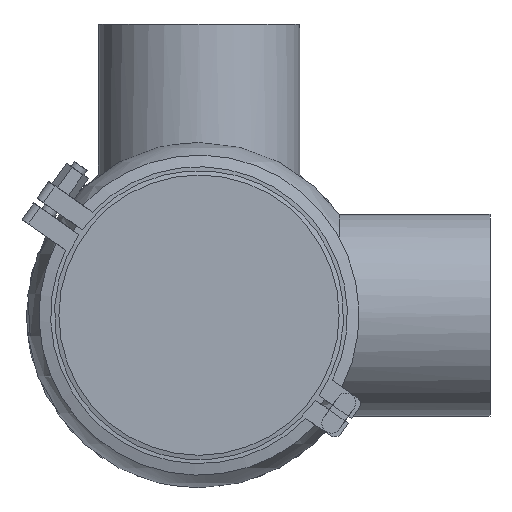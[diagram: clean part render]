
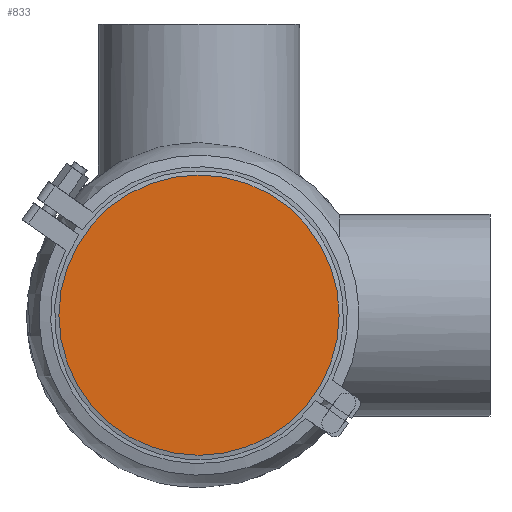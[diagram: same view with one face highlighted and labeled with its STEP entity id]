
A CAD part, front view. The second image highlights one B-rep face of the part: STEP entity #833.
In plain terms, the highlighted planar face has unit normal (0, -1, 0).
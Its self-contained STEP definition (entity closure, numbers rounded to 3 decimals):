
#22 = DIRECTION ( 'NONE',  ( 0., 0., -1. ) ) ;
#833 = ADVANCED_FACE ( 'NONE', ( #2846 ), #2747, .T. ) ;
#1066 = AXIS2_PLACEMENT_3D ( 'NONE', #8020, #14646, #9833 ) ;
#2747 = PLANE ( 'NONE',  #15154 ) ;
#2846 = FACE_OUTER_BOUND ( 'NONE', #19644, .T. ) ;
#4036 = EDGE_CURVE ( 'NONE', #9652, #9652, #14021, .T. ) ;
#8020 = CARTESIAN_POINT ( 'NONE',  ( 0., 0., 0. ) ) ;
#8069 = CARTESIAN_POINT ( 'NONE',  ( 0., 0., 72.25 ) ) ;
#9219 = DIRECTION ( 'NONE',  ( 0., -1., 0. ) ) ;
#9652 = VERTEX_POINT ( 'NONE', #8069 ) ;
#9833 = DIRECTION ( 'NONE',  ( 0., 0., 1. ) ) ;
#14021 = CIRCLE ( 'NONE', #1066, 72.25 ) ;
#14646 = DIRECTION ( 'NONE',  ( 0., 1., 0. ) ) ;
#15154 = AXIS2_PLACEMENT_3D ( 'NONE', #15760, #9219, #22 ) ;
#15760 = CARTESIAN_POINT ( 'NONE',  ( -72.25, 0., 0. ) ) ;
#16656 = ORIENTED_EDGE ( 'NONE', *, *, #4036, .F. ) ;
#19644 = EDGE_LOOP ( 'NONE', ( #16656 ) ) ;
